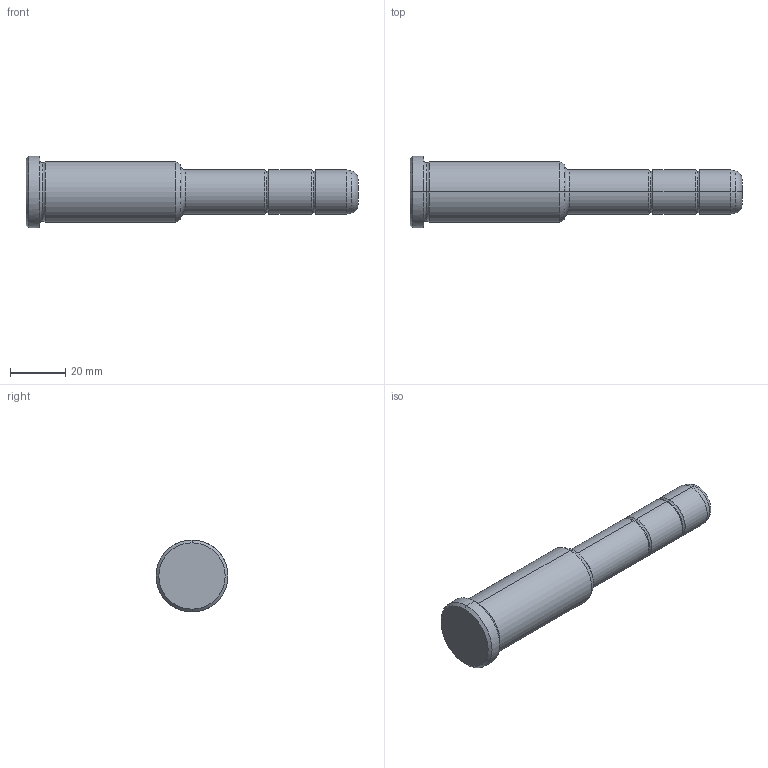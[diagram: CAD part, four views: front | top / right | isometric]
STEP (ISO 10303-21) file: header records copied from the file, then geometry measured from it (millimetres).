
FILE_DESCRIPTION(('CATIA V5 STEP Exchange'),'2;1');
FILE_NAME('C:\Users\Utente\Desktop\IO LAVORO\3D X SITO CF\X SITO\PLASTICA\351\351-16X56X120.stp','2021-08-18T12:18:31+00:00',('none'),('none'),'CATIA Version 5 Release 20 GA (IN-10)','CATIA V5 STEP AP203','none');
FILE_SCHEMA(('CONFIG_CONTROL_DESIGN'));
Length unit declared in the file: millimetre
Products named in the file (1): 351-16X56X120
Bounding box: 120 x 26 x 26 mm (x, y, z)
Volume: 34570 mm3; surface area: 8033.5 mm2
Topology: 1 solids, 1 shells, 36 faces, 102 edges, 70 vertices
Faces by surface type: torus 16, cylinder 10, cone 6, plane 4
Entity records: 1292 total; most frequent: CARTESIAN_POINT 321, ORIENTED_EDGE 204, DIRECTION 166, AXIS2_PLACEMENT_3D 115, EDGE_CURVE 102, CIRCLE 78, VERTEX_POINT 70, EDGE_LOOP 38
